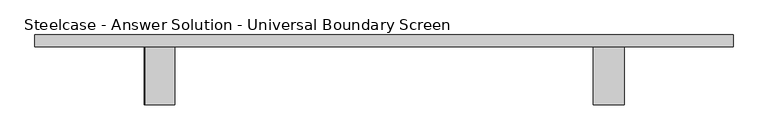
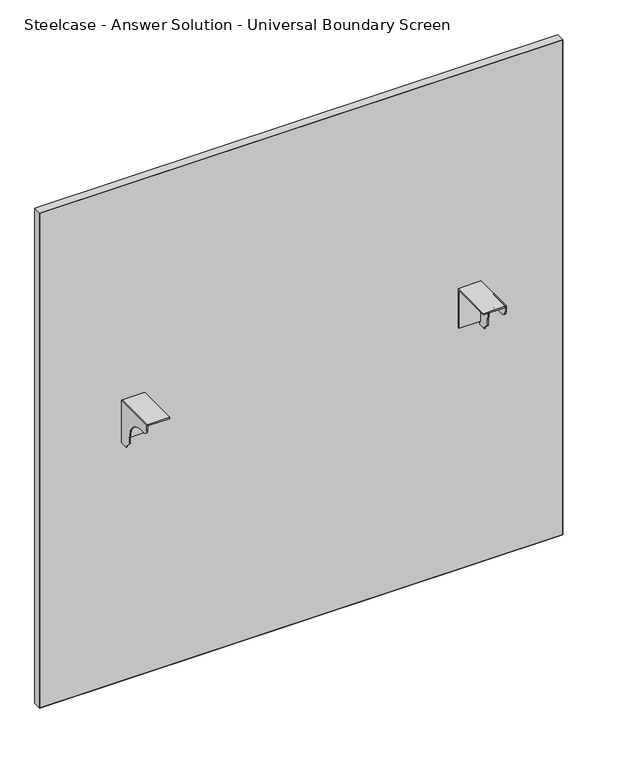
"""IFC4 building model written with IfcOpenShell, lengths in millimetres: furniture geometry, Steelcase - Answer Solution - Universal Boundary Screen : 48H x 48W."""

from ifc_helpers import new_model, si_unit, point, frame, frame_2d, origin, place, context, project, spatial, polyline, circle_curve, trimmed, segment, composite_curve, outline, extrude, source, transform, mapped, element, save


def steelcase_answer_solution_universal_boundary_screen_002bc12d(model_context):
    return source(origin(), model_context, "Body", "SweptSolid", [
        extrude(outline(polyline([(-103.1670434, 689.3558876), (-103.1670434, 692.1499758), (-1.5668826, 692.1499758), (-1.5668826, 595.5029317), (-4.1079736, 595.5029317), (-4.1079736, 689.3558876), (-103.1670434, 689.3558876)])), frame((895.8336711, 0.0, 0.0), z_axis=(1.0, 0.0, 0.0), x_axis=(0.0, 1.0, 0.0)), (0.0, 0.0, 1.0), 53.3444116),
        extrude(outline(composite_curve([segment(polyline([(-103.1670434, 679.2814802), (-103.1670434, 692.1499758), (-1.5668826, 692.1499758), (-1.5668826, 586.9634093), (-19.8232934, 586.9634093), (-19.8232934, 589.7574248), (-32.0458032, 601.9799346), (-32.0458032, 615.7814802)]), True, "CONTINUOUS"), segment(trimmed(circle_curve(frame_2d((-82.8458032, 615.7814802)), 50.8), [point((-32.0458032, 615.7814802))], [point((-82.8458032, 666.5814802))], True, "CARTESIAN"), True, "CONTINUOUS"), segment(polyline([(-82.8458032, 666.5814802), (-90.4670434, 666.5814802)]), True, "CONTINUOUS"), segment(trimmed(circle_curve(frame_2d((-90.4670434, 679.2814802)), 12.7), [point((-90.4670434, 666.5814802))], [point((-103.1670434, 679.2814802))], False, "CARTESIAN"), True, "CONTINUOUS")], self_intersect=False)), frame((946.6328959, 0.0, 0.0), z_axis=(1.0, 0.0, 0.0), x_axis=(0.0, 1.0, 0.0)), (0.0, 0.0, 1.0), 2.5451868),
        extrude(outline(polyline([(-103.1670434, 689.3558876), (-103.1670434, 692.1499758), (-1.5668826, 692.1499758), (-1.5668826, 595.5029317), (-4.1079736, 595.5029317), (-4.1079736, 689.3558876), (-103.1670434, 689.3558876)])), frame((113.5232694, 0.0, 0.0), z_axis=(1.0, 0.0, 0.0), x_axis=(0.0, 1.0, 0.0)), (0.0, 0.0, 1.0), 50.7992249),
        extrude(outline(composite_curve([segment(polyline([(-103.1670434, 679.2814802), (-103.1670434, 692.1499758), (-1.5668826, 692.1499758), (-1.5668826, 586.9634093), (-19.8232934, 586.9634093), (-19.8232934, 589.7574248), (-32.0458032, 601.9799346), (-32.0458032, 615.7814802)]), True, "CONTINUOUS"), segment(trimmed(circle_curve(frame_2d((-82.8458032, 615.7814802)), 50.8), [point((-32.0458032, 615.7814802))], [point((-82.8458032, 666.5814802))], True, "CARTESIAN"), True, "CONTINUOUS"), segment(polyline([(-82.8458032, 666.5814802), (-90.4670434, 666.5814802)]), True, "CONTINUOUS"), segment(trimmed(circle_curve(frame_2d((-90.4670434, 679.2814802)), 12.7), [point((-90.4670434, 666.5814802))], [point((-103.1670434, 679.2814802))], False, "CARTESIAN"), True, "CONTINUOUS")], self_intersect=False)), frame((110.9780827, 0.0, 0.0), z_axis=(1.0, 0.0, 0.0), x_axis=(0.0, 1.0, 0.0)), (0.0, 0.0, 1.0), 2.5451868),
        extrude(outline(polyline([(-78.5293422, 18.9055112), (1138.6855076, 18.9055112), (1138.6855076, -1.5668826), (-78.5293422, -1.5668826), (-78.5293422, 18.9055112)])), frame((0.0, 0.0, 1.016), z_axis=(0.0, 0.0, 1.0), x_axis=(1.0, 0.0, 0.0)), (0.0, 0.0, 1.0), 1217.1914249),
        extrude(outline(polyline([(1219.2, 1139.6780827), (1219.2, -79.5219173), (0.0, -79.5219173), (0.0, 1139.6780827), (1219.2, 1139.6780827)]), holes=[polyline([(1218.2074249, 1138.6855076), (1.016, 1138.6855076), (1.016, -78.5293422), (1218.2074249, -78.5293422), (1218.2074249, 1138.6855076)])]), frame((0.0, -1.5668826, 0.0), z_axis=(0.0, 1.0, 0.0), x_axis=(0.0, 0.0, 1.0)), (0.0, 0.0, 1.0), 20.4723938),
    ])


if __name__ == "__main__":
    model = new_model("IFC4")
    model_context = context("Model", 3, world=origin())
    ifc_project = project(units=[si_unit("LENGTHUNIT", "METRE", prefix="MILLI")], contexts=[model_context])
    site = spatial("IfcSite", under=ifc_project)
    building = spatial("IfcBuilding", under=site)
    placement = place(None, origin())
    steelcase_answer_solution_universal_boundary_screen_shape = steelcase_answer_solution_universal_boundary_screen_002bc12d(model_context)
    element("IfcFurniture", 1, ObjectType="Steelcase - Answer Solution - Universal Boundary Screen : 48H x 48W", at=placement, inside=building, context=model_context, shape_type="MappedRepresentation", body=[
        mapped(steelcase_answer_solution_universal_boundary_screen_shape, transform((0.0, 0.0, 0.0), x_axis=(1.0, 0.0, 0.0), y_axis=(0.0, 1.0, 0.0), z_axis=(0.0, 0.0, 1.0))),
    ])
    save(model, "model.ifc")
